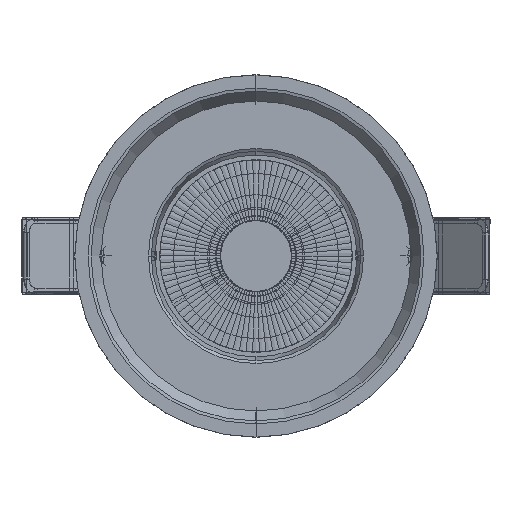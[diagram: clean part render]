
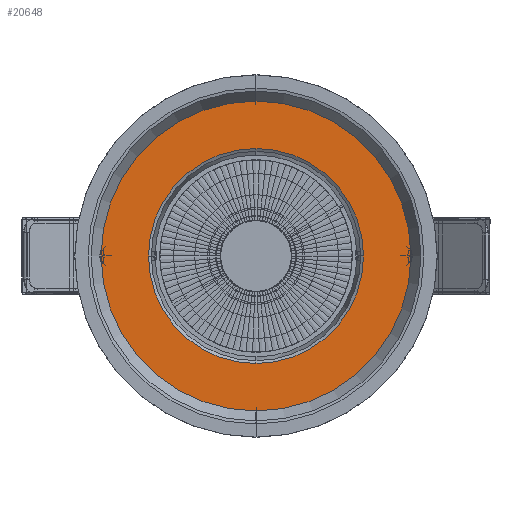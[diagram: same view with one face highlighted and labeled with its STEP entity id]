
A CAD part, front view. The second image highlights one B-rep face of the part: STEP entity #20648.
In plain terms, the highlighted planar face has unit normal (0, -1, 0).
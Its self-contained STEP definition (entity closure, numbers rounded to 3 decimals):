
#880 = DIRECTION ( 'NONE',  ( 0., 0., 1. ) ) ;
#2332 = CIRCLE ( 'NONE', #14087, 38.376 ) ;
#2441 = CARTESIAN_POINT ( 'NONE',  ( 0., -71.253, -38.376 ) ) ;
#3441 = CIRCLE ( 'NONE', #51561, 26.618 ) ;
#4804 = DIRECTION ( 'NONE',  ( 0., 1., 0. ) ) ;
#5069 = FACE_BOUND ( 'NONE', #14680, .T. ) ;
#5844 = DIRECTION ( 'NONE',  ( 0., 1., 0. ) ) ;
#8265 = PLANE ( 'NONE',  #43123 ) ;
#8566 = AXIS2_PLACEMENT_3D ( 'NONE', #32164, #28157, #44290 ) ;
#14087 = AXIS2_PLACEMENT_3D ( 'NONE', #46291, #5844, #26435 ) ;
#14329 = CIRCLE ( 'NONE', #22779, 26.618 ) ;
#14680 = EDGE_LOOP ( 'NONE', ( #43814, #26083 ) ) ;
#16893 = EDGE_CURVE ( 'NONE', #37533, #47448, #3441, .T. ) ;
#18491 = EDGE_CURVE ( 'NONE', #20758, #45833, #49934, .T. ) ;
#18599 = ORIENTED_EDGE ( 'NONE', *, *, #34993, .F. ) ;
#20648 = ADVANCED_FACE ( 'NONE', ( #5069, #40498 ), #8265, .F. ) ;
#20758 = VERTEX_POINT ( 'NONE', #2441 ) ;
#21616 = DIRECTION ( 'NONE',  ( 0., 1., 0. ) ) ;
#22779 = AXIS2_PLACEMENT_3D ( 'NONE', #40836, #24961, #29182 ) ;
#23809 = CARTESIAN_POINT ( 'NONE',  ( 0., -71.253, 38.376 ) ) ;
#24368 = CARTESIAN_POINT ( 'NONE',  ( 26., -71.253, 0. ) ) ;
#24961 = DIRECTION ( 'NONE',  ( 0., 1., 0. ) ) ;
#26083 = ORIENTED_EDGE ( 'NONE', *, *, #16893, .T. ) ;
#26435 = DIRECTION ( 'NONE',  ( 0., 0., 1. ) ) ;
#27625 = CARTESIAN_POINT ( 'NONE',  ( 0., -71.253, 26.618 ) ) ;
#28157 = DIRECTION ( 'NONE',  ( 0., 1., 0. ) ) ;
#29182 = DIRECTION ( 'NONE',  ( 0., 0., 1. ) ) ;
#30087 = CARTESIAN_POINT ( 'NONE',  ( 0., -71.253, 0. ) ) ;
#32164 = CARTESIAN_POINT ( 'NONE',  ( 0., -71.253, 0. ) ) ;
#34993 = EDGE_CURVE ( 'NONE', #45833, #20758, #2332, .T. ) ;
#37501 = DIRECTION ( 'NONE',  ( 0., 0., 1. ) ) ;
#37533 = VERTEX_POINT ( 'NONE', #27625 ) ;
#39111 = EDGE_LOOP ( 'NONE', ( #40851, #18599 ) ) ;
#40498 = FACE_OUTER_BOUND ( 'NONE', #39111, .T. ) ;
#40836 = CARTESIAN_POINT ( 'NONE',  ( 0., -71.253, 0. ) ) ;
#40851 = ORIENTED_EDGE ( 'NONE', *, *, #18491, .F. ) ;
#43123 = AXIS2_PLACEMENT_3D ( 'NONE', #24368, #4804, #880 ) ;
#43814 = ORIENTED_EDGE ( 'NONE', *, *, #50052, .T. ) ;
#44290 = DIRECTION ( 'NONE',  ( 0., 0., 1. ) ) ;
#45833 = VERTEX_POINT ( 'NONE', #23809 ) ;
#46291 = CARTESIAN_POINT ( 'NONE',  ( 0., -71.253, 0. ) ) ;
#47448 = VERTEX_POINT ( 'NONE', #49460 ) ;
#49460 = CARTESIAN_POINT ( 'NONE',  ( 0., -71.253, -26.618 ) ) ;
#49934 = CIRCLE ( 'NONE', #8566, 38.376 ) ;
#50052 = EDGE_CURVE ( 'NONE', #47448, #37533, #14329, .T. ) ;
#51561 = AXIS2_PLACEMENT_3D ( 'NONE', #30087, #21616, #37501 ) ;
